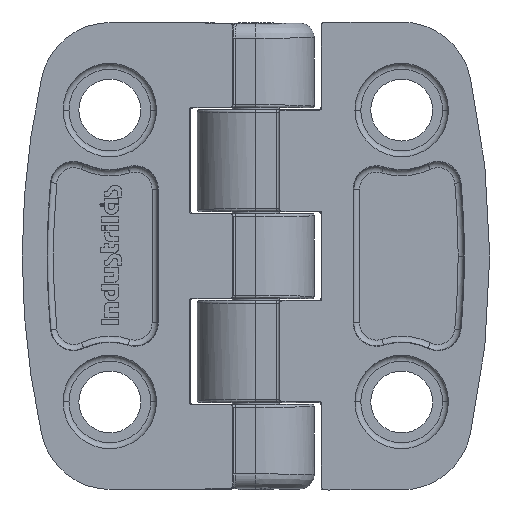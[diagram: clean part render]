
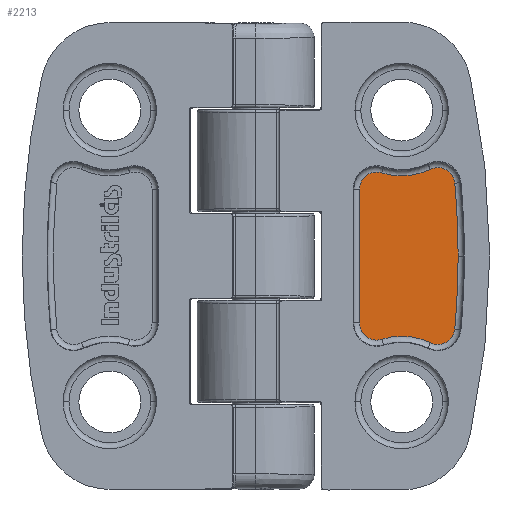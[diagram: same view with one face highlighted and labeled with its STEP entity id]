
A CAD part, top view. The second image highlights one B-rep face of the part: STEP entity #2213.
In plain terms, the highlighted planar face has unit normal (0, 0, 1).
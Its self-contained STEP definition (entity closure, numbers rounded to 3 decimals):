
#1599 = EDGE_CURVE ( 'NONE', #16203, #16174, #6848, .T. ) ;
#2213 = ADVANCED_FACE ( 'NONE', ( #10298 ), #13659, .T. ) ;
#3658 = EDGE_CURVE ( 'NONE', #16006, #16038, #10386, .T. ) ;
#3659 = EDGE_CURVE ( 'NONE', #16023, #16087, #10388, .T. ) ;
#3660 = EDGE_CURVE ( 'NONE', #16174, #16138, #10389, .T. ) ;
#3661 = EDGE_CURVE ( 'NONE', #16096, #16006, #10391, .T. ) ;
#3662 = EDGE_CURVE ( 'NONE', #16019, #16096, #10393, .T. ) ;
#3663 = EDGE_CURVE ( 'NONE', #16038, #16203, #10394, .T. ) ;
#3664 = EDGE_CURVE ( 'NONE', #16087, #16019, #10387, .T. ) ;
#3665 = EDGE_CURVE ( 'NONE', #16138, #16023, #10395, .T. ) ;
#3874 = AXIS2_PLACEMENT_3D ( 'NONE', #7953, #7954, #7955 ) ;
#3969 = EDGE_LOOP ( 'NONE', ( #4023, #4024, #4025, #4026, #4027, #4028, #4029, #4030, #4031 ) ) ;
#4023 = ORIENTED_EDGE ( 'NONE', *, *, #3662, .T. ) ;
#4024 = ORIENTED_EDGE ( 'NONE', *, *, #3661, .T. ) ;
#4025 = ORIENTED_EDGE ( 'NONE', *, *, #3658, .T. ) ;
#4026 = ORIENTED_EDGE ( 'NONE', *, *, #3663, .T. ) ;
#4027 = ORIENTED_EDGE ( 'NONE', *, *, #1599, .T. ) ;
#4028 = ORIENTED_EDGE ( 'NONE', *, *, #3660, .T. ) ;
#4029 = ORIENTED_EDGE ( 'NONE', *, *, #3665, .T. ) ;
#4030 = ORIENTED_EDGE ( 'NONE', *, *, #3659, .T. ) ;
#4031 = ORIENTED_EDGE ( 'NONE', *, *, #3664, .T. ) ;
#6848 = CIRCLE ( 'NONE', #3874, 68.334 ) ;
#7953 = CARTESIAN_POINT ( 'NONE',  ( -51., 0., 3. ) ) ;
#7954 = DIRECTION ( 'NONE',  ( 0., 0., 1. ) ) ;
#7955 = DIRECTION ( 'NONE',  ( 1., 0., 0. ) ) ;
#9629 = AXIS2_PLACEMENT_3D ( 'NONE', #13658, #13661, #13662 ) ;
#9726 = AXIS2_PLACEMENT_3D ( 'NONE', #13936, #13943, #13944 ) ;
#9727 = AXIS2_PLACEMENT_3D ( 'NONE', #13939, #13946, #13947 ) ;
#9728 = AXIS2_PLACEMENT_3D ( 'NONE', #13942, #13949, #13950 ) ;
#9729 = AXIS2_PLACEMENT_3D ( 'NONE', #13945, #13952, #13953 ) ;
#9730 = AXIS2_PLACEMENT_3D ( 'NONE', #13948, #13955, #13956 ) ;
#9731 = AXIS2_PLACEMENT_3D ( 'NONE', #13951, #13958, #13959 ) ;
#9733 = AXIS2_PLACEMENT_3D ( 'NONE', #13954, #13962, #13963 ) ;
#10298 = FACE_OUTER_BOUND ( 'NONE', #3969, .T. ) ;
#10386 = CIRCLE ( 'NONE', #9726, 1.465 ) ;
#10387 = LINE ( 'NONE', #13960, #10392 ) ;
#10388 = CIRCLE ( 'NONE', #9727, 1.465 ) ;
#10389 = CIRCLE ( 'NONE', #9728, 1.465 ) ;
#10391 = CIRCLE ( 'NONE', #9729, 5.635 ) ;
#10392 = VECTOR ( 'NONE', #13961, 1000. ) ;
#10393 = CIRCLE ( 'NONE', #9730, 1.465 ) ;
#10394 = CIRCLE ( 'NONE', #9731, 68.334 ) ;
#10395 = CIRCLE ( 'NONE', #9733, 5.635 ) ;
#13658 = CARTESIAN_POINT ( 'NONE',  ( 0., 0., 3. ) ) ;
#13659 = PLANE ( 'NONE',  #9629 ) ;
#13661 = DIRECTION ( 'NONE',  ( 0., 0., 1. ) ) ;
#13662 = DIRECTION ( 'NONE',  ( 1., 0., 0. ) ) ;
#13936 = CARTESIAN_POINT ( 'NONE',  ( 15.589, -6.107, 3. ) ) ;
#13939 = CARTESIAN_POINT ( 'NONE',  ( 10.35, 5.733, 3. ) ) ;
#13942 = CARTESIAN_POINT ( 'NONE',  ( 15.589, 6.107, 3. ) ) ;
#13943 = DIRECTION ( 'NONE',  ( 0., 0., 1. ) ) ;
#13944 = DIRECTION ( 'NONE',  ( 1., 0., 0. ) ) ;
#13945 = CARTESIAN_POINT ( 'NONE',  ( 12.5, -12.5, 3. ) ) ;
#13946 = DIRECTION ( 'NONE',  ( 0., 0., 1. ) ) ;
#13947 = DIRECTION ( 'NONE',  ( 1., 0., 0. ) ) ;
#13948 = CARTESIAN_POINT ( 'NONE',  ( 10.35, -5.733, 3. ) ) ;
#13949 = DIRECTION ( 'NONE',  ( 0., 0., 1. ) ) ;
#13950 = DIRECTION ( 'NONE',  ( 1., 0., 0. ) ) ;
#13951 = CARTESIAN_POINT ( 'NONE',  ( -51., 0., 3. ) ) ;
#13952 = DIRECTION ( 'NONE',  ( 0., 0., -1. ) ) ;
#13953 = DIRECTION ( 'NONE',  ( 1., 0., 0. ) ) ;
#13954 = CARTESIAN_POINT ( 'NONE',  ( 12.5, 12.5, 3. ) ) ;
#13955 = DIRECTION ( 'NONE',  ( 0., 0., 1. ) ) ;
#13956 = DIRECTION ( 'NONE',  ( 1., 0., 0. ) ) ;
#13958 = DIRECTION ( 'NONE',  ( 0., 0., 1. ) ) ;
#13959 = DIRECTION ( 'NONE',  ( 1., 0., 0. ) ) ;
#13960 = CARTESIAN_POINT ( 'NONE',  ( 8.885, 0., 3. ) ) ;
#13961 = DIRECTION ( 'NONE',  ( 0., -1., 0. ) ) ;
#13962 = DIRECTION ( 'NONE',  ( 0., 0., -1. ) ) ;
#13963 = DIRECTION ( 'NONE',  ( 1., 0., 0. ) ) ;
#14128 = CARTESIAN_POINT ( 'NONE',  ( 14.952, -7.426, 3. ) ) ;
#14151 = CARTESIAN_POINT ( 'NONE',  ( 10.794, 7.13, 3. ) ) ;
#14170 = CARTESIAN_POINT ( 'NONE',  ( 8.885, -5.733, 3. ) ) ;
#14188 = CARTESIAN_POINT ( 'NONE',  ( 17.048, -6.241, 3. ) ) ;
#14460 = CARTESIAN_POINT ( 'NONE',  ( 8.885, 5.733, 3. ) ) ;
#14469 = CARTESIAN_POINT ( 'NONE',  ( 10.794, -7.13, 3. ) ) ;
#14511 = CARTESIAN_POINT ( 'NONE',  ( 14.952, 7.426, 3. ) ) ;
#14547 = CARTESIAN_POINT ( 'NONE',  ( 17.048, 6.241, 3. ) ) ;
#14576 = CARTESIAN_POINT ( 'NONE',  ( 17.334, 0., 3. ) ) ;
#16006 = VERTEX_POINT ( 'NONE', #14128 ) ;
#16019 = VERTEX_POINT ( 'NONE', #14170 ) ;
#16023 = VERTEX_POINT ( 'NONE', #14151 ) ;
#16038 = VERTEX_POINT ( 'NONE', #14188 ) ;
#16087 = VERTEX_POINT ( 'NONE', #14460 ) ;
#16096 = VERTEX_POINT ( 'NONE', #14469 ) ;
#16138 = VERTEX_POINT ( 'NONE', #14511 ) ;
#16174 = VERTEX_POINT ( 'NONE', #14547 ) ;
#16203 = VERTEX_POINT ( 'NONE', #14576 ) ;
